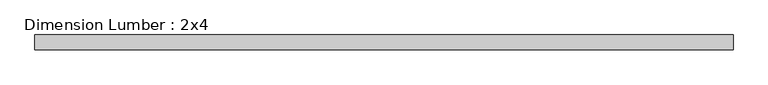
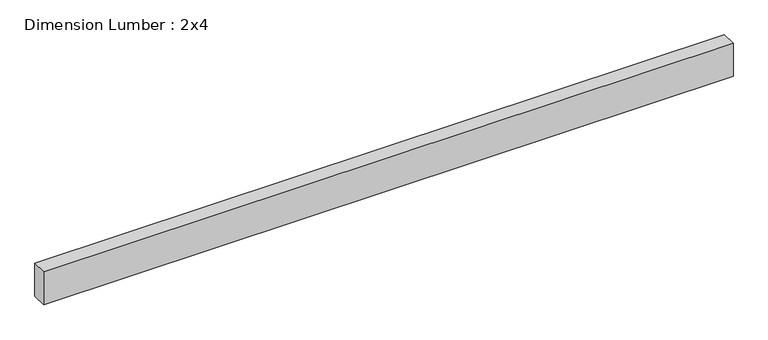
"""IFC4 building model written with IfcOpenShell, lengths in millimetres: beam geometry, Dimension Lumber : 2x4."""

from ifc_helpers import new_model, si_unit, frame, origin, place, context, project, spatial, polyline, outline, extrude, source, transform, mapped, element, save


def dimension_lumber_2x4_229769bb(model_context):
    return source(origin(), model_context, "Body", "SweptSolid", [
        extrude(outline(polyline([(882.65, 19.05), (882.65, -19.05), (-882.65, -19.05), (-882.65, 19.05), (882.65, 19.05)])), frame((0.0, 0.0, -44.45), z_axis=(0.0, 0.0, 1.0), x_axis=(1.0, 0.0, 0.0)), (0.0, 0.0, 1.0), 88.9),
    ])


if __name__ == "__main__":
    model = new_model("IFC4")
    model_context = context("Model", 3, world=origin())
    ifc_project = project(units=[si_unit("LENGTHUNIT", "METRE", prefix="MILLI")], contexts=[model_context])
    site = spatial("IfcSite", under=ifc_project)
    building = spatial("IfcBuilding", under=site)
    placement = place(None, origin())
    dimension_lumber_2x4_shape = dimension_lumber_2x4_229769bb(model_context)
    element("IfcBeam", 1, ObjectType="Dimension Lumber : 2x4", at=placement, inside=building, context=model_context, shape_type="MappedRepresentation", body=[
        mapped(dimension_lumber_2x4_shape, transform((0.0, 0.0, 0.0), x_axis=(1.0, 0.0, 0.0), y_axis=(0.0, 1.0, 0.0), z_axis=(0.0, 0.0, 1.0))),
    ])
    save(model, "model.ifc")
